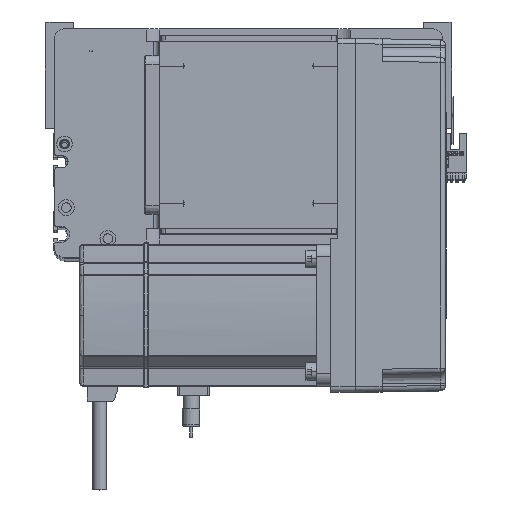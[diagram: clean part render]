
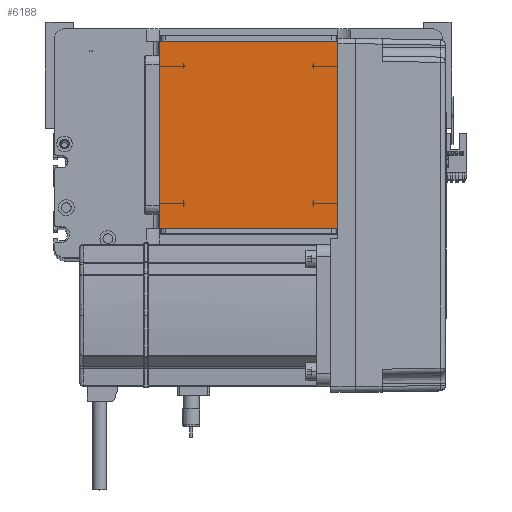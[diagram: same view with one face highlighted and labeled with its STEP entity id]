
A CAD part, top view. The second image highlights one B-rep face of the part: STEP entity #6188.
In plain terms, the highlighted planar face has unit normal (0, 0, 1).
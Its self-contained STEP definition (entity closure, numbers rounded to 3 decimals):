
#1132 = VERTEX_POINT ( 'NONE', #37223 ) ;
#2901 = AXIS2_PLACEMENT_3D ( 'NONE', #9125, #36693, #36537 ) ;
#3763 = DIRECTION ( 'NONE',  ( 0., -1., 0. ) ) ;
#4024 = ORIENTED_EDGE ( 'NONE', *, *, #7135, .T. ) ;
#4583 = VERTEX_POINT ( 'NONE', #23532 ) ;
#5331 = CARTESIAN_POINT ( 'NONE',  ( -50.5, 122., 115. ) ) ;
#6188 = ADVANCED_FACE ( 'NONE', ( #10687 ), #32582, .T. ) ;
#7135 = EDGE_CURVE ( 'NONE', #1132, #4583, #28356, .T. ) ;
#8494 = EDGE_CURVE ( 'NONE', #23315, #32639, #31989, .T. ) ;
#9125 = CARTESIAN_POINT ( 'NONE',  ( 0., 0., 115. ) ) ;
#9566 = LINE ( 'NONE', #39721, #40184 ) ;
#10687 = FACE_OUTER_BOUND ( 'NONE', #21768, .T. ) ;
#13349 = DIRECTION ( 'NONE',  ( -1., 0., 0. ) ) ;
#15088 = DIRECTION ( 'NONE',  ( 1., 0., 0. ) ) ;
#15511 = VECTOR ( 'NONE', #3763, 1000. ) ;
#16211 = CARTESIAN_POINT ( 'NONE',  ( 50.5, 16., 115. ) ) ;
#18384 = EDGE_CURVE ( 'NONE', #32639, #1132, #9566, .T. ) ;
#19024 = CARTESIAN_POINT ( 'NONE',  ( -50.5, 122., 115. ) ) ;
#19142 = VECTOR ( 'NONE', #13349, 1000. ) ;
#21768 = EDGE_LOOP ( 'NONE', ( #48472, #39192, #38736, #4024 ) ) ;
#23315 = VERTEX_POINT ( 'NONE', #28214 ) ;
#23532 = CARTESIAN_POINT ( 'NONE',  ( -50.5, 122., 115. ) ) ;
#25963 = LINE ( 'NONE', #19024, #15511 ) ;
#28214 = CARTESIAN_POINT ( 'NONE',  ( -50.5, 16., 115. ) ) ;
#28356 = LINE ( 'NONE', #5331, #19142 ) ;
#30675 = CARTESIAN_POINT ( 'NONE',  ( -50.5, 16., 115. ) ) ;
#31989 = LINE ( 'NONE', #30675, #40585 ) ;
#32582 = PLANE ( 'NONE',  #2901 ) ;
#32639 = VERTEX_POINT ( 'NONE', #16211 ) ;
#36537 = DIRECTION ( 'NONE',  ( 1., 0., 0. ) ) ;
#36693 = DIRECTION ( 'NONE',  ( 0., 0., 1. ) ) ;
#37223 = CARTESIAN_POINT ( 'NONE',  ( 50.5, 122., 115. ) ) ;
#38736 = ORIENTED_EDGE ( 'NONE', *, *, #18384, .T. ) ;
#39192 = ORIENTED_EDGE ( 'NONE', *, *, #8494, .T. ) ;
#39721 = CARTESIAN_POINT ( 'NONE',  ( 50.5, 122., 115. ) ) ;
#40184 = VECTOR ( 'NONE', #43299, 1000. ) ;
#40585 = VECTOR ( 'NONE', #15088, 1000. ) ;
#43299 = DIRECTION ( 'NONE',  ( 0., 1., 0. ) ) ;
#47200 = EDGE_CURVE ( 'NONE', #4583, #23315, #25963, .T. ) ;
#48472 = ORIENTED_EDGE ( 'NONE', *, *, #47200, .T. ) ;
